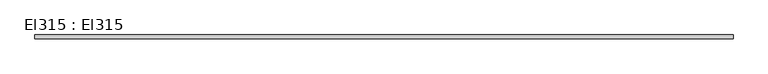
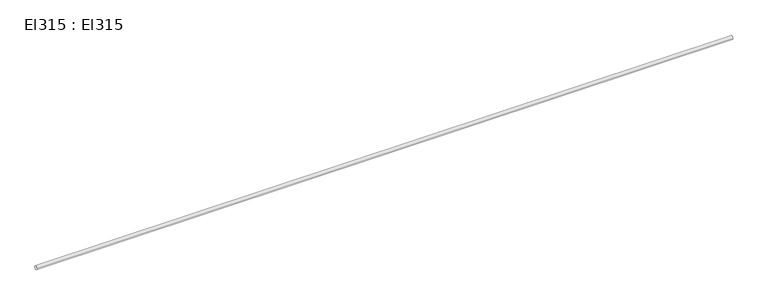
"""IFC4 building model written with IfcOpenShell, lengths in millimetres: cable carrier segment geometry, El315 : El315."""

from ifc_helpers import new_model, si_unit, point, frame, frame_2d, origin, place, context, project, spatial, circle_curve, trimmed, segment, composite_curve, outline, extrude, source, transform, mapped, element, save


def el315_el315_37d098e0(model_context):
    return source(origin(), model_context, "Body", "SweptSolid", [
        extrude(outline(composite_curve([segment(trimmed(circle_curve(frame_2d((14272.1, 2950.0)), 9.5), [point((14262.6, 2950.0))], [point((14281.6, 2950.0))], False, "CARTESIAN"), True, "CONTINUOUS"), segment(trimmed(circle_curve(frame_2d((14272.1, 2950.0)), 9.5), [point((14281.6, 2950.0))], [point((14262.6, 2950.0))], False, "CARTESIAN"), True, "CONTINUOUS")], self_intersect=False)), frame((27401.1, 0.0, 0.0), z_axis=(1.0, 0.0, 0.0), x_axis=(0.0, 1.0, 0.0)), (0.0, 0.0, 1.0), 3420.0),
    ])


if __name__ == "__main__":
    model = new_model("IFC4")
    model_context = context("Model", 3, world=origin())
    ifc_project = project(units=[si_unit("LENGTHUNIT", "METRE", prefix="MILLI")], contexts=[model_context])
    site = spatial("IfcSite", under=ifc_project)
    building = spatial("IfcBuilding", under=site)
    placement = place(None, origin())
    el315_el315_shape = el315_el315_37d098e0(model_context)
    element("IfcCableCarrierSegment", 1, ObjectType="El315 : El315", at=placement, inside=building, context=model_context, shape_type="MappedRepresentation", body=[
        mapped(el315_el315_shape, transform((0.0, 0.0, 0.0), x_axis=(1.0, 0.0, 0.0), y_axis=(0.0, 1.0, 0.0), z_axis=(0.0, 0.0, 1.0))),
    ])
    save(model, "model.ifc")
